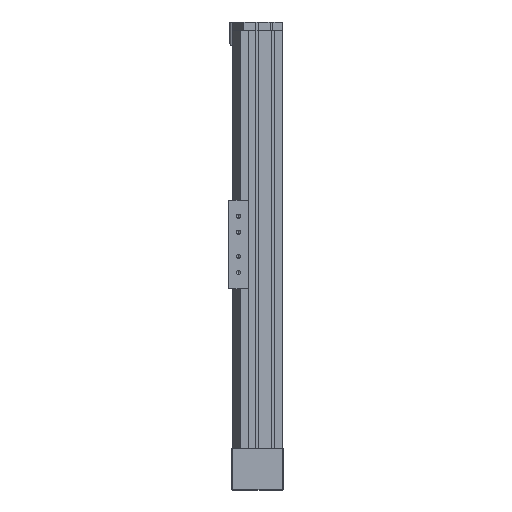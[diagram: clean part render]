
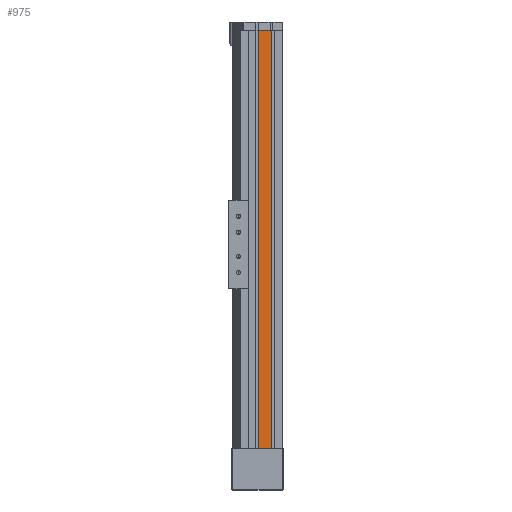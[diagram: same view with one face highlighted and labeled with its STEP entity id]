
A CAD part, left-side view. The second image highlights one B-rep face of the part: STEP entity #975.
In plain terms, the highlighted planar face has unit normal (-1, 0, 0).
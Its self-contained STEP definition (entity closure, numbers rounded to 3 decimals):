
#496 = VERTEX_POINT ( 'NONE', #2965 ) ;
#502 = VERTEX_POINT ( 'NONE', #3000 ) ;
#541 = EDGE_CURVE ( 'NONE', #502, #496, #3103, .T. ) ;
#711 = VERTEX_POINT ( 'NONE', #3386 ) ;
#715 = VERTEX_POINT ( 'NONE', #3380 ) ;
#864 = EDGE_CURVE ( 'NONE', #711, #715, #3603, .T. ) ;
#952 = EDGE_CURVE ( 'NONE', #715, #496, #3737, .T. ) ;
#967 = EDGE_CURVE ( 'NONE', #711, #502, #3725, .T. ) ;
#975 = ADVANCED_FACE ( 'NONE', ( #3718 ), #3766, .F. ) ;
#983 = EDGE_LOOP ( 'NONE', ( #994, #993, #997, #1013 ) ) ;
#993 = ORIENTED_EDGE ( 'NONE', *, *, #541, .F. ) ;
#994 = ORIENTED_EDGE ( 'NONE', *, *, #952, .T. ) ;
#997 = ORIENTED_EDGE ( 'NONE', *, *, #967, .F. ) ;
#1013 = ORIENTED_EDGE ( 'NONE', *, *, #864, .T. ) ;
#2965 = CARTESIAN_POINT ( 'NONE',  ( 0., 13.75, 520. ) ) ;
#3000 = CARTESIAN_POINT ( 'NONE',  ( 0., 30., 520. ) ) ;
#3099 = DIRECTION ( 'NONE',  ( 0., -1., 0. ) ) ;
#3100 = VECTOR ( 'NONE', #3099, 1000. ) ;
#3102 = CARTESIAN_POINT ( 'NONE',  ( 0., 0., 520. ) ) ;
#3103 = LINE ( 'NONE', #3102, #3100 ) ;
#3380 = CARTESIAN_POINT ( 'NONE',  ( 0., 13.75, 0. ) ) ;
#3386 = CARTESIAN_POINT ( 'NONE',  ( 0., 30., 0. ) ) ;
#3600 = DIRECTION ( 'NONE',  ( 0., -1., 0. ) ) ;
#3601 = VECTOR ( 'NONE', #3600, 1000. ) ;
#3602 = CARTESIAN_POINT ( 'NONE',  ( 0., 0., 0. ) ) ;
#3603 = LINE ( 'NONE', #3602, #3601 ) ;
#3718 = FACE_OUTER_BOUND ( 'NONE', #983, .T. ) ;
#3724 = CARTESIAN_POINT ( 'NONE',  ( 0., 30., 0. ) ) ;
#3725 = LINE ( 'NONE', #3724, #3769 ) ;
#3726 = DIRECTION ( 'NONE',  ( 0., 0., 1. ) ) ;
#3727 = VECTOR ( 'NONE', #3726, 1000. ) ;
#3728 = CARTESIAN_POINT ( 'NONE',  ( 0., 13.75, 0. ) ) ;
#3737 = LINE ( 'NONE', #3728, #3727 ) ;
#3752 = DIRECTION ( 'NONE',  ( 0., 0., -1. ) ) ;
#3753 = DIRECTION ( 'NONE',  ( 1., 0., 0. ) ) ;
#3754 = CARTESIAN_POINT ( 'NONE',  ( 0., 0., 520. ) ) ;
#3758 = AXIS2_PLACEMENT_3D ( 'NONE', #3754, #3753, #3752 ) ;
#3766 = PLANE ( 'NONE',  #3758 ) ;
#3768 = DIRECTION ( 'NONE',  ( 0., 0., 1. ) ) ;
#3769 = VECTOR ( 'NONE', #3768, 1000. ) ;
